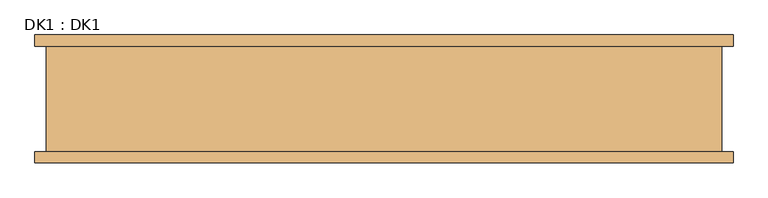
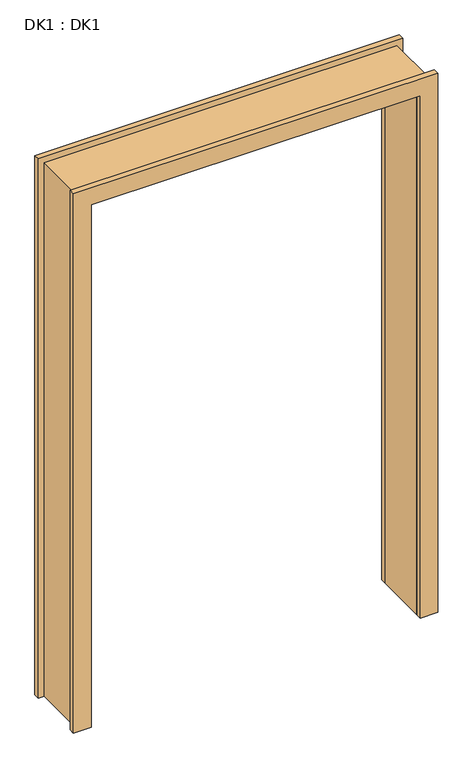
"""IFC4 building model written with IfcOpenShell, lengths in millimetres: door geometry, DK1 : DK1."""

from ifc_helpers import new_model, si_unit, frame, origin, place, context, project, spatial, polyline, outline, extrude, source, transform, mapped, element, save


def dk1_dk1_83e99b34(model_context):
    return source(origin(), model_context, "Body", "SweptSolid", [
        extrude(outline(polyline([(2400.0, -750.0), (0.0, -750.0), (0.0, -700.0), (2350.0, -700.0), (2350.0, 700.0), (0.0, 700.0), (0.0, 750.0), (2400.0, 750.0), (2400.0, -750.0)])), frame((0.0, -117.0, 0.0), z_axis=(0.0, 1.0, 0.0), x_axis=(0.0, 0.0, 1.0)), (0.0, 0.0, 1.0), 234.0),
        extrude(outline(polyline([(2425.0, -775.0), (0.0, -775.0), (0.0, -700.0), (2350.0, -700.0), (2350.0, 700.0), (0.0, 700.0), (0.0, 775.0), (2425.0, 775.0), (2425.0, -775.0)])), frame((0.0, 117.0, 0.0), z_axis=(0.0, 1.0, 0.0), x_axis=(0.0, 0.0, 1.0)), (0.0, 0.0, 1.0), 25.0),
        extrude(outline(polyline([(2425.0, -775.0), (0.0, -775.0), (0.0, -700.0), (2350.0, -700.0), (2350.0, 700.0), (0.0, 700.0), (0.0, 775.0), (2425.0, 775.0), (2425.0, -775.0)])), frame((0.0, -142.0, 0.0), z_axis=(0.0, 1.0, 0.0), x_axis=(0.0, 0.0, 1.0)), (0.0, 0.0, 1.0), 25.0),
    ])


if __name__ == "__main__":
    model = new_model("IFC4")
    model_context = context("Model", 3, world=origin())
    ifc_project = project(units=[si_unit("LENGTHUNIT", "METRE", prefix="MILLI")], contexts=[model_context])
    site = spatial("IfcSite", under=ifc_project)
    building = spatial("IfcBuilding", under=site)
    placement = place(None, origin())
    dk1_dk1_shape = dk1_dk1_83e99b34(model_context)
    element("IfcDoor", 1, ObjectType="DK1 : DK1", at=placement, inside=building, context=model_context, shape_type="MappedRepresentation", body=[
        mapped(dk1_dk1_shape, transform((0.0, 0.0, 0.0), x_axis=(1.0, 0.0, 0.0), y_axis=(0.0, 1.0, 0.0), z_axis=(0.0, 0.0, 1.0))),
    ])
    save(model, "model.ifc")
